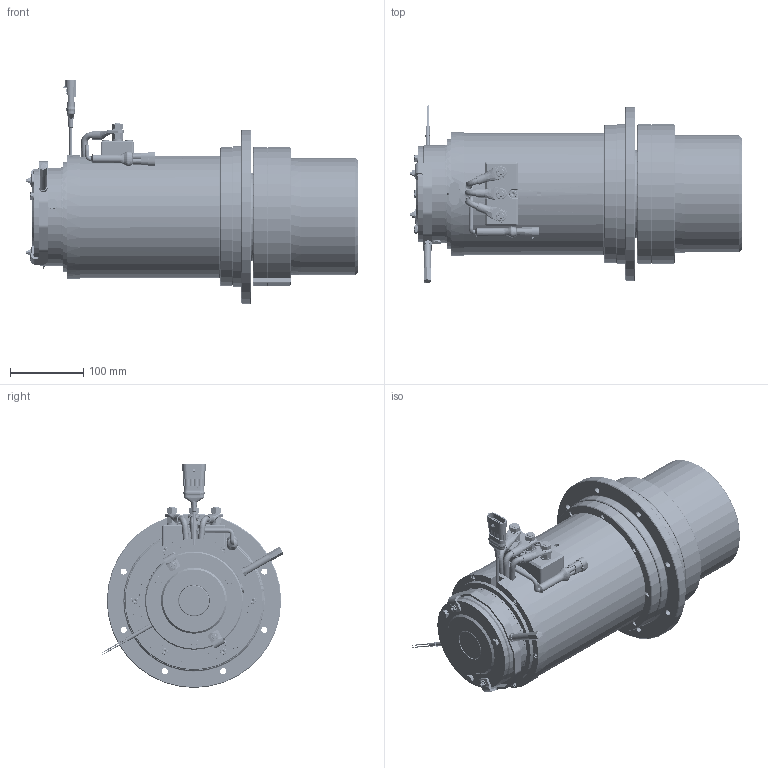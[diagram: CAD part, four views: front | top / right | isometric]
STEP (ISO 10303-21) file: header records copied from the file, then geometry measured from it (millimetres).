
FILE_DESCRIPTION(/* description */ (''),/* implementation_level */ '2;1');
FILE_NAME(/* name */ 'Z:\SITO WEB 2024\Dual Drive\MRH160\MRH160-AC.stp',/* time_stamp */ '2024-03-21T12:01:19+01:00',/* author */ ('cad3'),/* organization */ (''),/* preprocessor_version */ 'ST-DEVELOPER v18.1',/* originating_system */ 'Autodesk Inventor 2022',/* authorisation */ '');
FILE_SCHEMA (('AUTOMOTIVE_DESIGN { 1 0 10303 214 3 1 1 }'));
Products named in the file (1): MRH160-AC
Bounding box: 453.2 x 249.42 x 305.49 mm (x, y, z)
Volume: 4628954.6 mm3; surface area: 1001997 mm2
Topology: 11 solids, 77 shells, 12321 faces, 32385 edges, 21095 vertices
Faces by surface type: plane 9573, cylinder 1346, cone 594, torus 480, bspline 314, sphere 14
Full cylindrical faces by diameter (mm): 0.5 x2, 1.5 x2, 4 x10, 4.134 x6, 4.3 x6, 4.5 x2, 4.917 x24, 5 x10, 5.2 x2, 5.3 x6, 5.4 x1, 5.5 x12, 6 x28, 6.2 x6, 6.3 x5, 6.4 x3, 6.5 x22, 6.647 x18, 7 x2, 7.8 x9, 8 x30, 8.1 x1, 8.2 x3, 8.3 x6, 8.376 x16, 8.4 x15, 8.5 x23, 8.75 x3, 8.88 x3, 8.917 x3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
Entity records: 428320 total; most frequent: CARTESIAN_POINT 106249, ORIENTED_EDGE 64530, DIRECTION 64527, EDGE_CURVE 32265, AXIS2_PLACEMENT_3D 21754, VERTEX_POINT 21102, LINE 21019, VECTOR 21019
